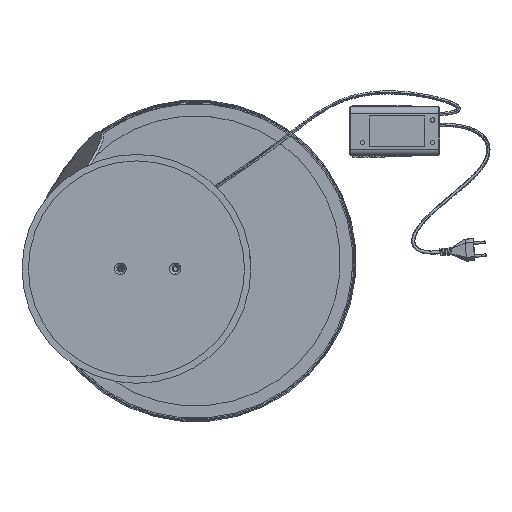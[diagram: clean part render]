
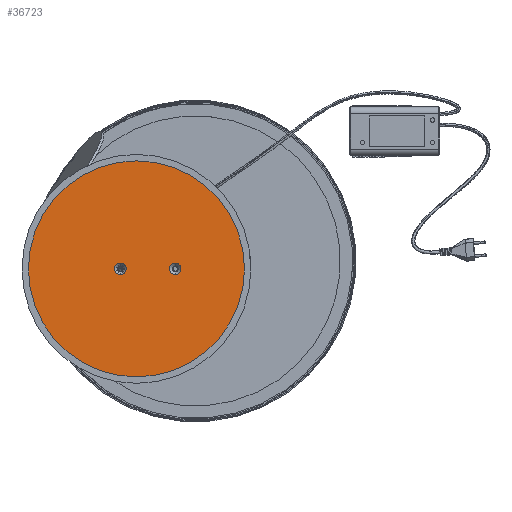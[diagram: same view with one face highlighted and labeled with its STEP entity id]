
A CAD part, front view. The second image highlights one B-rep face of the part: STEP entity #36723.
In plain terms, the highlighted planar face has unit normal (0, -1, 0).
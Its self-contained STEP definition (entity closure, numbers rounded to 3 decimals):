
#790 = EDGE_LOOP ( 'NONE', ( #10914, #25094 ) ) ;
#1314 = CARTESIAN_POINT ( 'NONE',  ( -25., 0., 0. ) ) ;
#1715 = AXIS2_PLACEMENT_3D ( 'NONE', #1314, #15438, #11382 ) ;
#2928 = CARTESIAN_POINT ( 'NONE',  ( 0., 0., 0. ) ) ;
#5668 = AXIS2_PLACEMENT_3D ( 'NONE', #38684, #30479, #19476 ) ;
#6569 = CARTESIAN_POINT ( 'NONE',  ( 60., 0., -8.96 ) ) ;
#6666 = CIRCLE ( 'NONE', #5668, 167.5 ) ;
#7637 = EDGE_CURVE ( 'NONE', #46079, #31028, #6666, .T. ) ;
#8856 = VERTEX_POINT ( 'NONE', #6569 ) ;
#8857 = FACE_OUTER_BOUND ( 'NONE', #790, .T. ) ;
#9468 = DIRECTION ( 'NONE',  ( 0., 1., 0. ) ) ;
#10286 = ORIENTED_EDGE ( 'NONE', *, *, #13124, .F. ) ;
#10676 = DIRECTION ( 'NONE',  ( 0., 0., -1. ) ) ;
#10914 = ORIENTED_EDGE ( 'NONE', *, *, #7637, .F. ) ;
#11382 = DIRECTION ( 'NONE',  ( 0., 0., -1. ) ) ;
#11669 = AXIS2_PLACEMENT_3D ( 'NONE', #29237, #24833, #43698 ) ;
#13124 = EDGE_CURVE ( 'NONE', #13773, #8856, #38205, .T. ) ;
#13773 = VERTEX_POINT ( 'NONE', #56782 ) ;
#14526 = CARTESIAN_POINT ( 'NONE',  ( 0., 0., -167.5 ) ) ;
#14915 = DIRECTION ( 'NONE',  ( 0., -1., 0. ) ) ;
#15056 = CARTESIAN_POINT ( 'NONE',  ( 60., 0., 0. ) ) ;
#15438 = DIRECTION ( 'NONE',  ( 0., -1., 0. ) ) ;
#17937 = EDGE_CURVE ( 'NONE', #31028, #46079, #50598, .T. ) ;
#18571 = DIRECTION ( 'NONE',  ( 1., 0., 0. ) ) ;
#18704 = DIRECTION ( 'NONE',  ( 0., 0., -1. ) ) ;
#19476 = DIRECTION ( 'NONE',  ( 0., 0., 1. ) ) ;
#20561 = EDGE_LOOP ( 'NONE', ( #37838, #34061 ) ) ;
#21664 = VERTEX_POINT ( 'NONE', #29048 ) ;
#24528 = PLANE ( 'NONE',  #37323 ) ;
#24833 = DIRECTION ( 'NONE',  ( 0., -1., 0. ) ) ;
#25094 = ORIENTED_EDGE ( 'NONE', *, *, #17937, .F. ) ;
#27319 = VERTEX_POINT ( 'NONE', #50776 ) ;
#28835 = EDGE_CURVE ( 'NONE', #27319, #21664, #40881, .T. ) ;
#29048 = CARTESIAN_POINT ( 'NONE',  ( -25., 0., -8.96 ) ) ;
#29237 = CARTESIAN_POINT ( 'NONE',  ( 60., 0., 0. ) ) ;
#30479 = DIRECTION ( 'NONE',  ( 0., 1., 0. ) ) ;
#31028 = VERTEX_POINT ( 'NONE', #53637 ) ;
#33672 = CARTESIAN_POINT ( 'NONE',  ( 0., 0., 0. ) ) ;
#34061 = ORIENTED_EDGE ( 'NONE', *, *, #28835, .F. ) ;
#34776 = EDGE_CURVE ( 'NONE', #21664, #27319, #50517, .T. ) ;
#36723 = ADVANCED_FACE ( 'NONE', ( #8857, #61674, #48429 ), #24528, .F. ) ;
#37323 = AXIS2_PLACEMENT_3D ( 'NONE', #33672, #9468, #18571 ) ;
#37838 = ORIENTED_EDGE ( 'NONE', *, *, #34776, .F. ) ;
#38205 = CIRCLE ( 'NONE', #52232, 8.96 ) ;
#38684 = CARTESIAN_POINT ( 'NONE',  ( 0., 0., 0. ) ) ;
#40881 = CIRCLE ( 'NONE', #1715, 8.96 ) ;
#40986 = DIRECTION ( 'NONE',  ( 0., 1., 0. ) ) ;
#43698 = DIRECTION ( 'NONE',  ( 0., 0., -1. ) ) ;
#44441 = EDGE_CURVE ( 'NONE', #8856, #13773, #51828, .T. ) ;
#44507 = AXIS2_PLACEMENT_3D ( 'NONE', #48260, #14915, #18704 ) ;
#46079 = VERTEX_POINT ( 'NONE', #14526 ) ;
#46561 = AXIS2_PLACEMENT_3D ( 'NONE', #2928, #40986, #59528 ) ;
#48260 = CARTESIAN_POINT ( 'NONE',  ( -25., 0., 0. ) ) ;
#48429 = FACE_BOUND ( 'NONE', #20561, .T. ) ;
#50517 = CIRCLE ( 'NONE', #44507, 8.96 ) ;
#50598 = CIRCLE ( 'NONE', #46561, 167.5 ) ;
#50776 = CARTESIAN_POINT ( 'NONE',  ( -25., 0., 8.96 ) ) ;
#51828 = CIRCLE ( 'NONE', #11669, 8.96 ) ;
#52232 = AXIS2_PLACEMENT_3D ( 'NONE', #15056, #57528, #10676 ) ;
#53637 = CARTESIAN_POINT ( 'NONE',  ( 0., 0., 167.5 ) ) ;
#56782 = CARTESIAN_POINT ( 'NONE',  ( 60., 0., 8.96 ) ) ;
#57528 = DIRECTION ( 'NONE',  ( 0., -1., 0. ) ) ;
#59528 = DIRECTION ( 'NONE',  ( 0., 0., 1. ) ) ;
#60634 = EDGE_LOOP ( 'NONE', ( #62184, #10286 ) ) ;
#61674 = FACE_BOUND ( 'NONE', #60634, .T. ) ;
#62184 = ORIENTED_EDGE ( 'NONE', *, *, #44441, .F. ) ;
